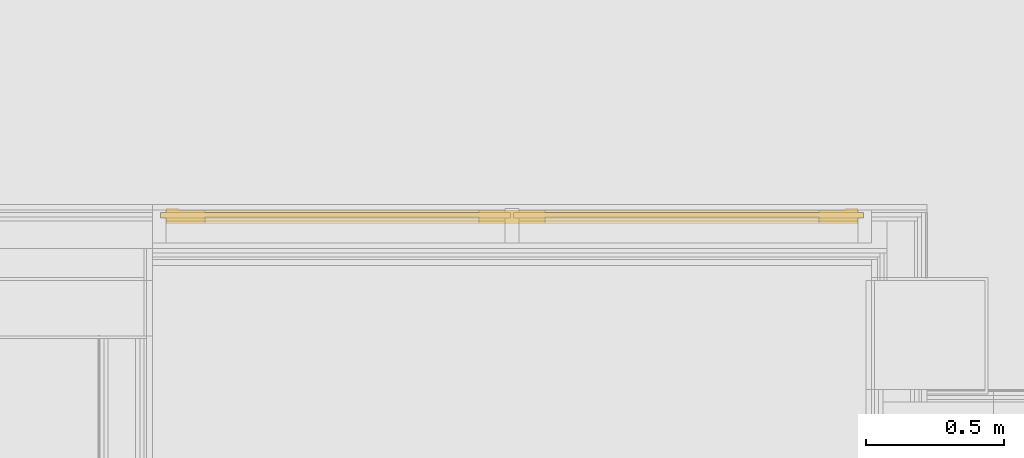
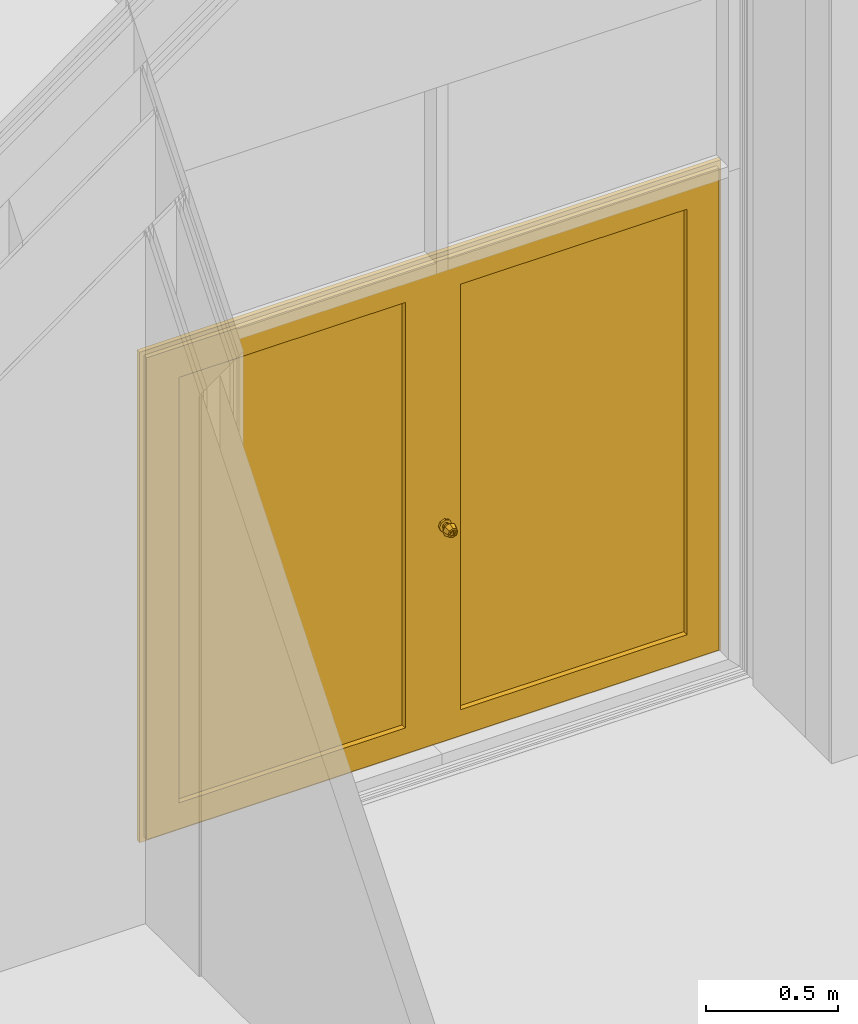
# One storey, part 249 of 260: 1 door, 1 element without a shape of its own.
"""IFC2X3 building model written with IfcOpenShell, lengths in millimetres."""

from ifc_helpers import new_model, entity, si_unit, converted_unit, derived_unit, money_unit, direction, frame, origin_with_axes, place, context, subcontext, project, spatial, open_shell, faceted_brep, surface_model, material, material_list, type_object, element, aggregate, save


model = new_model("IFC2X3")

# Units and contexts
model_context = context("Model", 3, precision=0.01, world=origin_with_axes(), true_north=direction((0.0, 1.0)))
body_context = subcontext(model_context, "Body", "Model", "MODEL_VIEW")
ifc_project = project(units=[si_unit("LENGTHUNIT", "METRE", prefix="MILLI"), si_unit("AREAUNIT", "SQUARE_METRE"), si_unit("VOLUMEUNIT", "CUBIC_METRE"), converted_unit("PLANEANGLEUNIT", "DEGREE", entity("IfcPlaneAngleMeasure", 0.0174532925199), si_unit("PLANEANGLEUNIT", "RADIAN"), dimensions=[0, 0, 0, 0, 0, 0, 0]), money_unit("EUR"), converted_unit("TIMEUNIT", "Year", entity("IfcTimeMeasure", 31556926.0), si_unit("TIMEUNIT", "SECOND"), dimensions=[0, 0, 1, 0, 0, 0, 0]), si_unit("MASSUNIT", "GRAM", prefix="KILO"), si_unit("THERMODYNAMICTEMPERATUREUNIT", "DEGREE_CELSIUS"), si_unit("LUMINOUSINTENSITYUNIT", "LUMEN"), si_unit("ENERGYUNIT", "JOULE", prefix="MEGA"), derived_unit("THERMALCONDUCTANCEUNIT", [(si_unit("POWERUNIT", "WATT"), 1), (si_unit("LENGTHUNIT", "METRE"), -1), (si_unit("THERMODYNAMICTEMPERATUREUNIT", "KELVIN"), -1)]), derived_unit("SPECIFICHEATCAPACITYUNIT", [(si_unit("ENERGYUNIT", "JOULE"), 1), (si_unit("MASSUNIT", "GRAM", prefix="KILO"), -1), (si_unit("THERMODYNAMICTEMPERATUREUNIT", "KELVIN"), -1)]), derived_unit("MASSDENSITYUNIT", [(si_unit("MASSUNIT", "GRAM", prefix="KILO"), 1), (si_unit("VOLUMEUNIT", "CUBIC_METRE"), -1)])], contexts=[model_context])

# Site, building, storey
site_placement = place(None, origin_with_axes())
site = spatial("IfcSite", under=ifc_project, at=site_placement, Name="Kolde pst 67a", CompositionType="ELEMENT")
building_placement = place(site_placement, origin_with_axes())
building = spatial("IfcBuilding", under=site, at=building_placement, Name="Riigigümnaasium", CompositionType="ELEMENT")
storey_placement = place(building_placement, origin_with_axes())
storey = spatial("IfcBuildingStorey", under=building, at=storey_placement, Name="1. korrus", CompositionType="ELEMENT", Elevation=0.0)

# Curtain wall, door
curtain_wall_type = type_object("IfcCurtainWallType", Name="Curtain Wall Type", PredefinedType="NOTDEFINED")
curtain_wall_placement = place(storey_placement, frame((75080.0012187, 24675.0981117, -4.39663905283e-06), z_axis=(0.0, 0.0, 1.0), x_axis=(1.0, 0.0, 0.0)))
curtain_wall = element("IfcCurtainWall", 1, at=curtain_wall_placement, inside=storey, type_object=curtain_wall_type, Name="KLAASSEIN")
ifc_material_1 = material(Name="_METALL - alumiinium")
ifc_material_2 = material(Name="_KLAAS - kirgas")
ifc_material_3 = material(Name="_METALL - roostevaba terasleht, harjatud, 1mm")
ifc_material_list = material_list([ifc_material_1, ifc_material_2, ifc_material_3])
door_style = type_object("IfcDoorStyle", Name="1270 x 2265 x 20", ConstructionType="NOTDEFINED", OperationType="DOUBLE_DOOR_SINGLE_SWING", ParameterTakesPrecedence=False, Sizeable=False)
door_placement = place(curtain_wall_placement, frame((0.0, 0.0, 1150.0), z_axis=(0.0, 0.0, 1.0), x_axis=(-1.0, 0.0, 0.0)))
door = element("IfcDoor", 2, at=door_placement, type_object=door_style, material=ifc_material_list, Name="Kahepoolne siseuks", ObjectType="DOOR", OverallHeight=2225.0, OverallWidth=2500.0, context=body_context, shape_type="SurfaceModel", body=[
    faceted_brep([(1250.00167274, -20.0, -1099.99998407), (1250.00167274, -20.0, 1125.00000803), (1250.00167274, -25.0, 1125.00000803), (1250.00167274, -25.0, -1099.99998407), (1205.00167274, -20.0, -1099.99998407), (1205.00167274, -20.0, 1080.00000803), (1205.00167274, -25.0, 1080.00000803), (1205.00167274, -25.0, -1099.99998407)], [[[0, 1, 2, 3]], [[0, 4, 5, 1]], [[1, 5, 6, 2]], [[3, 2, 6, 7]], [[4, 0, 3, 7]], [[5, 4, 7, 6]]]),
    faceted_brep([(-1250.00082841, -20.0, 1125.00000803), (-1205.00082841, -20.0, 1080.00000803), (-1205.00082841, -25.0, 1080.00000803), (-1250.00082841, -25.0, 1125.00000803), (1250.00167274, -20.0, 1125.00000803), (1205.00167274, -20.0, 1080.00000803), (1205.00167274, -25.0, 1080.00000803), (1250.00167274, -25.0, 1125.00000803)], [[[0, 1, 2, 3]], [[0, 4, 5, 1]], [[1, 5, 6, 2]], [[3, 2, 6, 7]], [[4, 0, 3, 7]], [[5, 4, 7, 6]]]),
    faceted_brep([(-1250.00082841, -20.0, -1099.99998407), (-1205.00082841, -20.0, -1099.99998407), (-1205.00082841, -25.0, -1099.99998407), (-1250.00082841, -25.0, -1099.99998407), (-1250.00082841, -20.0, 1125.00000803), (-1205.00082841, -20.0, 1080.00000803), (-1205.00082841, -25.0, 1080.00000803), (-1250.00082841, -25.0, 1125.00000803)], [[[0, 1, 2, 3]], [[0, 4, 5, 1]], [[1, 5, 6, 2]], [[3, 2, 6, 7]], [[4, 0, 3, 7]], [[5, 4, 7, 6]]]),
    faceted_brep([(1250.00167274, 30.0, -1099.99998407), (1250.00167274, 30.0, 1125.00000803), (1250.00167274, -20.0, 1125.00000803), (1250.00167274, -20.0, -1099.99998407), (1230.00167274, 30.0, -1099.99998407), (1230.00167274, 30.0, 1105.00000803), (1230.00167274, -20.0, 1105.00000803), (1230.00167274, -20.0, -1099.99998407)], [[[0, 1, 2, 3]], [[0, 4, 5, 1]], [[1, 5, 6, 2]], [[3, 2, 6, 7]], [[4, 0, 3, 7]], [[5, 4, 7, 6]]]),
    faceted_brep([(-1250.00082841, 30.0, 1125.00000803), (-1230.00082841, 30.0, 1105.00000803), (-1230.00082841, -20.0, 1105.00000803), (-1250.00082841, -20.0, 1125.00000803), (1250.00167274, 30.0, 1125.00000803), (1230.00167274, 30.0, 1105.00000803), (1230.00167274, -20.0, 1105.00000803), (1250.00167274, -20.0, 1125.00000803)], [[[0, 1, 2, 3]], [[0, 4, 5, 1]], [[1, 5, 6, 2]], [[3, 2, 6, 7]], [[4, 0, 3, 7]], [[5, 4, 7, 6]]]),
    faceted_brep([(-1250.00082841, 30.0, -1099.99998407), (-1230.00082841, 30.0, -1099.99998407), (-1230.00082841, -20.0, -1099.99998407), (-1250.00082841, -20.0, -1099.99998407), (-1250.00082841, 30.0, 1125.00000803), (-1230.00082841, 30.0, 1105.00000803), (-1230.00082841, -20.0, 1105.00000803), (-1250.00082841, -20.0, 1125.00000803)], [[[0, 1, 2, 3]], [[0, 4, 5, 1]], [[1, 5, 6, 2]], [[3, 2, 6, 7]], [[4, 0, 3, 7]], [[5, 4, 7, 6]]]),
    faceted_brep([(-1270.00082703, 10.0, -1119.99998269), (1270.00167137, 10.0, -1119.99998269), (1270.00167137, -10.0, -1119.99998269), (-1270.00082703, -10.0, -1119.99998269), (-1250.00082841, 10.0, -1099.99998407), (1250.00167274, 10.0, -1099.99998407), (1250.00167274, -10.0, -1099.99998407), (-1250.00082841, -10.0, -1099.99998407)], [[[0, 1, 2, 3]], [[0, 4, 5, 1]], [[1, 5, 6, 2]], [[3, 2, 6, 7]], [[4, 0, 3, 7]], [[5, 4, 7, 6]]]),
    faceted_brep([(1270.00167137, 10.0, -1119.99998269), (1270.00167137, 10.0, 1145.00000665), (1270.00167137, -10.0, 1145.00000665), (1270.00167137, -10.0, -1119.99998269), (1250.00167274, 10.0, -1099.99998407), (1250.00167274, 10.0, 1125.00000803), (1250.00167274, -10.0, 1125.00000803), (1250.00167274, -10.0, -1099.99998407)], [[[0, 1, 2, 3]], [[0, 4, 5, 1]], [[1, 5, 6, 2]], [[3, 2, 6, 7]], [[4, 0, 3, 7]], [[5, 4, 7, 6]]]),
    faceted_brep([(1270.00167137, 10.0, 1145.00000665), (-1270.00082703, 10.0, 1145.00000665), (-1270.00082703, -10.0, 1145.00000665), (1270.00167137, -10.0, 1145.00000665), (1250.00167274, 10.0, 1125.00000803), (-1250.00082841, 10.0, 1125.00000803), (-1250.00082841, -10.0, 1125.00000803), (1250.00167274, -10.0, 1125.00000803)], [[[0, 1, 2, 3]], [[0, 4, 5, 1]], [[1, 5, 6, 2]], [[3, 2, 6, 7]], [[4, 0, 3, 7]], [[5, 4, 7, 6]]]),
    faceted_brep([(-1270.00082703, 10.0, 1145.00000665), (-1270.00082703, 10.0, -1119.99998269), (-1270.00082703, -10.0, -1119.99998269), (-1270.00082703, -10.0, 1145.00000665), (-1250.00082841, 10.0, 1125.00000803), (-1250.00082841, 10.0, -1099.99998407), (-1250.00082841, -10.0, -1099.99998407), (-1250.00082841, -10.0, 1125.00000803)], [[[0, 1, 2, 3]], [[0, 4, 5, 1]], [[1, 5, 6, 2]], [[3, 2, 6, 7]], [[4, 0, 3, 7]], [[5, 4, 7, 6]]]),
    faceted_brep([(-1110.00082841, -20.0, -979.999984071), (-1110.00082841, 30.0, -979.999984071), (-1110.00082841, 30.0, 985.000008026), (-1110.00082841, -20.0, 985.000008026), (-1230.00082841, -20.0, -1099.99998407), (-1230.00082841, 30.0, -1099.99998407), (-1230.00082841, 30.0, 1105.00000803), (-1230.00082841, -20.0, 1105.00000803)], [[[0, 1, 2, 3]], [[4, 5, 1, 0]], [[1, 5, 6, 2]], [[3, 2, 6, 7]], [[0, 3, 7, 4]], [[7, 6, 5, 4]]]),
    faceted_brep([(0.000422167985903, -20.0, -1099.99998407), (0.000422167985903, 30.0, -1099.99998407), (0.000422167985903, 30.0, 1105.00000803), (0.000422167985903, -20.0, 1105.00000803), (-119.999577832, -20.0, -979.999984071), (-119.999577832, 30.0, -979.999984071), (-119.999577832, 30.0, 985.000008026), (-119.999577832, -20.0, 985.000008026)], [[[0, 1, 2, 3]], [[4, 5, 1, 0]], [[1, 5, 6, 2]], [[3, 2, 6, 7]], [[0, 3, 7, 4]], [[7, 6, 5, 4]]]),
    faceted_brep([(0.000422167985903, -20.0, -1099.99998407), (0.000422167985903, 30.0, -1099.99998407), (-119.999577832, 30.0, -979.999984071), (-119.999577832, -20.0, -979.999984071), (-1230.00082841, -20.0, -1099.99998407), (-1230.00082841, 30.0, -1099.99998407), (-1110.00082841, 30.0, -979.999984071), (-1110.00082841, -20.0, -979.999984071)], [[[0, 1, 2, 3]], [[4, 5, 1, 0]], [[1, 5, 6, 2]], [[3, 2, 6, 7]], [[0, 3, 7, 4]], [[7, 6, 5, 4]]]),
    faceted_brep([(-1230.00082841, -20.0, 1105.00000803), (-1230.00082841, 30.0, 1105.00000803), (-1110.00082841, 30.0, 985.000008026), (-1110.00082841, -20.0, 985.000008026), (0.000422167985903, -20.0, 1105.00000803), (0.000422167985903, 30.0, 1105.00000803), (-119.999577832, 30.0, 985.000008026), (-119.999577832, -20.0, 985.000008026)], [[[0, 1, 2, 3]], [[4, 5, 1, 0]], [[1, 5, 6, 2]], [[3, 2, 6, 7]], [[0, 3, 7, 4]], [[7, 6, 5, 4]]]),
    faceted_brep([(-1110.00082841, -10.0, -979.999984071), (-1110.00082841, 6.0, -979.999984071), (-119.999577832, 6.0, -979.999984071), (-119.999577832, -10.0, -979.999984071), (-1110.00082841, -10.0, 985.000008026), (-1110.00082841, 6.0, 985.000008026), (-119.999577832, 6.0, 985.000008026), (-119.999577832, -10.0, 985.000008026)], [[[0, 1, 2, 3]], [[4, 5, 1, 0]], [[1, 5, 6, 2]], [[3, 2, 6, 7]], [[0, 3, 7, 4]], [[7, 6, 5, 4]]]),
    surface_model("IfcShellBasedSurfaceModel", [(-41.999577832, 95.2132034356, -91.9999840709), (-49.999577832, 95.2132034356, -88.6862755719), (-49.999577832, 97.275238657, -83.7330813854), (-38.4971406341, 97.275238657, -88.4975468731), (-38.685869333, 95.2132034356, -99.9999840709), (-41.999577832, 95.2132034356, -107.999984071), (-49.999577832, 95.2132034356, -111.31369257), (-57.999577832, 95.2132034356, -107.999984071), (-61.313286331, 95.2132034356, -99.9999840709), (-57.999577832, 95.2132034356, -91.9999840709), (-61.5020150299, 97.275238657, -88.4975468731), (-49.999577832, 95.2249852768, -78.7749987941), (-34.9912468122, 95.2249852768, -84.9916530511), (-33.7326751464, 97.275238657, -99.9999840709), (-38.4971406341, 97.275238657, -111.502421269), (-49.999577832, 97.275238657, -116.266886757), (-61.5020150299, 97.275238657, -111.502421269), (-66.2664805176, 97.275238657, -99.9999840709), (-65.0079088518, 95.2249852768, -84.9916530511), (-49.999577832, 70.0772711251, -70.2407468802), (-28.9566194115, 70.0772711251, -78.9570256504), (-28.7745925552, 95.2249852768, -99.9999840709), (-34.9912468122, 95.2249852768, -115.008315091), (-49.999577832, 95.2249852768, -121.224969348), (-65.0079088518, 95.2249852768, -115.008315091), (-71.2245631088, 95.2249852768, -99.9999840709), (-71.0425362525, 70.0772711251, -78.9570256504), (-49.999577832, 48.0, -84.9999840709), (-39.3929761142, 48.0, -89.3933823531), (-20.2403406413, 70.0772711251, -99.9999840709), (-28.9566194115, 70.0772711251, -121.042942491), (-49.999577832, 70.0772711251, -129.759221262), (-71.0425362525, 70.0772711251, -121.042942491), (-79.7588150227, 70.0772711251, -99.9999840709), (-60.6061795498, 48.0, -89.3933823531), (-49.999577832, 47.98, -84.9999840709), (-39.3929761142, 47.98, -89.3933823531), (-34.999577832, 48.0, -99.9999840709), (-39.3929761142, 48.0, -110.606585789), (-49.999577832, 48.0, -114.999984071), (-60.6061795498, 48.0, -110.606585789), (-64.999577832, 48.0, -99.9999840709), (-60.6061795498, 47.98, -89.3933823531), (-49.999577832, 40.1, -84.9999840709), (-39.3929761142, 40.1, -89.3933823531), (-34.999577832, 47.98, -99.9999840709), (-39.3929761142, 47.98, -110.606585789), (-49.999577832, 47.98, -114.999984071), (-60.6061795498, 47.98, -110.606585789), (-64.999577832, 47.98, -99.9999840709), (-60.6061795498, 40.1, -89.3933823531), (-49.999577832, 40.0, -84.9999840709), (-39.3929761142, 40.0, -89.3933823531), (-34.999577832, 40.1, -99.9999840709), (-39.3929761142, 40.1, -110.606585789), (-49.999577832, 40.1, -114.999984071), (-60.6061795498, 40.1, -110.606585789), (-64.999577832, 40.1, -99.9999840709), (-60.6061795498, 40.0, -89.3933823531), (-49.999577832, 40.0, -84.8999840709), (-39.3222654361, 40.0, -89.322671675), (-34.999577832, 40.0, -99.9999840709), (-39.3929761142, 40.0, -110.606585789), (-49.999577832, 40.0, -114.999984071), (-60.6061795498, 40.0, -110.606585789), (-64.999577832, 40.0, -99.9999840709), (-60.6768902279, 40.0, -89.322671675), (-49.999577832, 40.0, -73.0999840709), (-30.9784054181, 40.0, -80.978811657), (-34.899577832, 40.0, -99.9999840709), (-39.3222654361, 40.0, -110.677296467), (-49.999577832, 40.0, -115.099984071), (-60.6768902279, 40.0, -110.677296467), (-65.099577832, 40.0, -99.9999840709), (-69.0207502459, 40.0, -80.978811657), (-49.999577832, 40.0, -72.9999840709), (-30.90769474, 40.0, -80.9081009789), (-23.099577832, 40.0, -99.9999840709), (-30.9784054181, 40.0, -119.021156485), (-49.999577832, 40.0, -126.899984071), (-69.0207502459, 40.0, -119.021156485), (-76.899577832, 40.0, -99.9999840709), (-69.0914609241, 40.0, -80.9081009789), (-49.999577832, 39.9, -72.9999840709), (-30.90769474, 39.9, -80.9081009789), (-22.999577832, 40.0, -99.9999840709), (-30.90769474, 40.0, -119.091867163), (-49.999577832, 40.0, -126.999984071), (-69.0914609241, 40.0, -119.091867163), (-76.999577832, 40.0, -99.9999840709), (-69.0914609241, 39.9, -80.9081009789), (-49.999577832, 30.0, -72.9999840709), (-30.90769474, 30.0, -80.9081009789), (-22.999577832, 39.9, -99.9999840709), (-30.90769474, 39.9, -119.091867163), (-49.999577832, 39.9, -126.999984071), (-69.0914609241, 39.9, -119.091867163), (-76.999577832, 39.9, -99.9999840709), (-69.0914609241, 30.0, -80.9081009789), (-22.999577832, 30.0, -99.9999840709), (-30.90769474, 30.0, -119.091867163), (-49.999577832, 30.0, -126.999984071), (-69.0914609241, 30.0, -119.091867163), (-76.999577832, 30.0, -99.9999840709)], [open_shell([[[0, 1, 2, 3]], [[1, 0, 4, 5, 6, 7, 8, 9]], [[1, 9, 10, 2]], [[3, 2, 11, 12]], [[4, 0, 3, 13]], [[5, 4, 13, 14]], [[6, 5, 14, 15]], [[7, 6, 15, 16]], [[8, 7, 16, 17]], [[9, 8, 17, 10]], [[2, 10, 18, 11]], [[12, 11, 19, 20]], [[13, 3, 12, 21]], [[14, 13, 21, 22]], [[15, 14, 22, 23]], [[16, 15, 23, 24]], [[17, 16, 24, 25]], [[10, 17, 25, 18]], [[11, 18, 26, 19]], [[20, 19, 27, 28]], [[21, 12, 20, 29]], [[22, 21, 29, 30]], [[23, 22, 30, 31]], [[24, 23, 31, 32]], [[25, 24, 32, 33]], [[18, 25, 33, 26]], [[19, 26, 34, 27]], [[28, 27, 35, 36]], [[29, 20, 28, 37]], [[30, 29, 37, 38]], [[31, 30, 38, 39]], [[32, 31, 39, 40]], [[33, 32, 40, 41]], [[26, 33, 41, 34]], [[27, 34, 42, 35]], [[36, 35, 43, 44]], [[37, 28, 36, 45]], [[38, 37, 45, 46]], [[39, 38, 46, 47]], [[40, 39, 47, 48]], [[41, 40, 48, 49]], [[34, 41, 49, 42]], [[35, 42, 50, 43]], [[44, 43, 51, 52]], [[45, 36, 44, 53]], [[46, 45, 53, 54]], [[47, 46, 54, 55]], [[48, 47, 55, 56]], [[49, 48, 56, 57]], [[42, 49, 57, 50]], [[43, 50, 58, 51]], [[52, 51, 59, 60]], [[53, 44, 52, 61]], [[54, 53, 61, 62]], [[55, 54, 62, 63]], [[56, 55, 63, 64]], [[57, 56, 64, 65]], [[50, 57, 65, 58]], [[51, 58, 66, 59]], [[60, 59, 67, 68]], [[61, 52, 60, 69]], [[62, 61, 69, 70]], [[63, 62, 70, 71]], [[64, 63, 71, 72]], [[65, 64, 72, 73]], [[58, 65, 73, 66]], [[59, 66, 74, 67]], [[68, 67, 75, 76]], [[69, 60, 68, 77]], [[70, 69, 77, 78]], [[71, 70, 78, 79]], [[72, 71, 79, 80]], [[73, 72, 80, 81]], [[66, 73, 81, 74]], [[67, 74, 82, 75]], [[76, 75, 83, 84]], [[77, 68, 76, 85]], [[78, 77, 85, 86]], [[79, 78, 86, 87]], [[80, 79, 87, 88]], [[81, 80, 88, 89]], [[74, 81, 89, 82]], [[75, 82, 90, 83]], [[84, 83, 91, 92]], [[85, 76, 84, 93]], [[86, 85, 93, 94]], [[87, 86, 94, 95]], [[88, 87, 95, 96]], [[89, 88, 96, 97]], [[82, 89, 97, 90]], [[83, 90, 98, 91]], [[93, 84, 92, 99]], [[94, 93, 99, 100]], [[95, 94, 100, 101]], [[96, 95, 101, 102]], [[97, 96, 102, 103]], [[90, 97, 103, 98]]])]),
    faceted_brep([(-57.4241990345, 95.2132034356, -107.424605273), (-49.999577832, 95.2132034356, -110.499984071), (-42.5749566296, 95.2132034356, -107.424605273), (-39.499577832, 95.2132034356, -99.9999840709), (-42.5749566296, 95.2132034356, -92.5753628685), (-49.999577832, 95.2132034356, -89.4999840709), (-57.4241990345, 95.2132034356, -92.5753628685), (-60.499577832, 95.2132034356, -99.9999840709), (-57.4241990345, 96.7132034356, -107.424605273), (-49.999577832, 96.7132034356, -110.499984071), (-42.5749566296, 96.7132034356, -107.424605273), (-39.499577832, 96.7132034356, -99.9999840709), (-42.5749566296, 96.7132034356, -92.5753628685), (-49.999577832, 96.7132034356, -89.4999840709), (-57.4241990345, 96.7132034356, -92.5753628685), (-60.499577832, 96.7132034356, -99.9999840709)], [[[0, 1, 2, 3, 4, 5, 6, 7]], [[1, 0, 8, 9]], [[2, 1, 9, 10]], [[3, 2, 10, 11]], [[4, 3, 11, 12]], [[5, 4, 12, 13]], [[6, 5, 13, 14]], [[7, 6, 14, 15]], [[0, 7, 15, 8]], [[8, 15, 14, 13, 12, 11, 10, 9]]]),
    faceted_brep([(-51.499577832, 96.7132034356, -109.999984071), (-51.499577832, 103.784271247, -107.071051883), (-48.499577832, 103.784271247, -107.071051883), (-48.499577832, 96.7132034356, -109.999984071), (-51.499577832, 96.7132034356, -89.9999840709), (-51.499577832, 103.784271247, -92.9289162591), (-51.499577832, 106.713203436, -99.9999840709), (-48.499577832, 106.713203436, -99.9999840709), (-48.499577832, 103.784271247, -92.9289162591), (-48.499577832, 96.7132034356, -89.9999840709)], [[[0, 1, 2, 3]], [[0, 4, 5, 6, 1]], [[1, 6, 7, 2]], [[3, 2, 7, 8, 9]], [[4, 0, 3, 9]], [[5, 4, 9, 8]], [[6, 5, 8, 7]]]),
    surface_model("IfcShellBasedSurfaceModel", [(-41.999577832, -85.2132034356, -91.9999840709), (-38.4971406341, -87.275238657, -88.4975468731), (-49.999577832, -87.275238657, -83.7330813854), (-49.999577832, -85.2132034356, -88.6862755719), (-38.685869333, -85.2132034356, -99.9999840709), (-33.7326751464, -87.275238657, -99.9999840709), (-34.9912468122, -85.2249852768, -84.9916530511), (-49.999577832, -85.2249852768, -78.7749987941), (-61.5020150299, -87.275238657, -88.4975468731), (-57.999577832, -85.2132034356, -91.9999840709), (-61.313286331, -85.2132034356, -99.9999840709), (-57.999577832, -85.2132034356, -107.999984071), (-49.999577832, -85.2132034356, -111.31369257), (-41.999577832, -85.2132034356, -107.999984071), (-38.4971406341, -87.275238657, -111.502421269), (-28.7745925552, -85.2249852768, -99.9999840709), (-28.9566194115, -60.0772711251, -78.9570256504), (-49.999577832, -60.0772711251, -70.2407468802), (-65.0079088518, -85.2249852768, -84.9916530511), (-66.2664805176, -87.275238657, -99.9999840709), (-61.5020150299, -87.275238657, -111.502421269), (-49.999577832, -87.275238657, -116.266886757), (-34.9912468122, -85.2249852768, -115.008315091), (-20.2403406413, -60.0772711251, -99.9999840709), (-39.3929761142, -38.0, -89.3933823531), (-49.999577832, -38.0, -84.9999840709), (-71.0425362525, -60.0772711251, -78.9570256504), (-71.2245631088, -85.2249852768, -99.9999840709), (-65.0079088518, -85.2249852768, -115.008315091), (-49.999577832, -85.2249852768, -121.224969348), (-28.9566194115, -60.0772711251, -121.042942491), (-34.999577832, -38.0, -99.9999840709), (-39.3929761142, -37.98, -89.3933823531), (-49.999577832, -37.98, -84.9999840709), (-60.6061795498, -38.0, -89.3933823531), (-79.7588150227, -60.0772711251, -99.9999840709), (-71.0425362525, -60.0772711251, -121.042942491), (-49.999577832, -60.0772711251, -129.759221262), (-39.3929761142, -38.0, -110.606585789), (-34.999577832, -37.98, -99.9999840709), (-39.3929761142, -30.1, -89.3933823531), (-49.999577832, -30.1, -84.9999840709), (-60.6061795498, -37.98, -89.3933823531), (-64.999577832, -38.0, -99.9999840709), (-60.6061795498, -38.0, -110.606585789), (-49.999577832, -38.0, -114.999984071), (-39.3929761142, -37.98, -110.606585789), (-34.999577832, -30.1, -99.9999840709), (-39.3929761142, -30.0, -89.3933823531), (-49.999577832, -30.0, -84.9999840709), (-60.6061795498, -30.1, -89.3933823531), (-64.999577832, -37.98, -99.9999840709), (-60.6061795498, -37.98, -110.606585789), (-49.999577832, -37.98, -114.999984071), (-39.3929761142, -30.1, -110.606585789), (-34.999577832, -30.0, -99.9999840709), (-39.3222654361, -30.0, -89.322671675), (-49.999577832, -30.0, -84.8999840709), (-60.6061795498, -30.0, -89.3933823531), (-64.999577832, -30.1, -99.9999840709), (-60.6061795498, -30.1, -110.606585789), (-49.999577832, -30.1, -114.999984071), (-39.3929761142, -30.0, -110.606585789), (-34.899577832, -30.0, -99.9999840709), (-30.9784054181, -30.0, -80.978811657), (-49.999577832, -30.0, -73.0999840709), (-60.6768902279, -30.0, -89.322671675), (-64.999577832, -30.0, -99.9999840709), (-60.6061795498, -30.0, -110.606585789), (-49.999577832, -30.0, -114.999984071), (-39.3222654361, -30.0, -110.677296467), (-23.099577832, -30.0, -99.9999840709), (-30.90769474, -30.0, -80.9081009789), (-49.999577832, -30.0, -72.9999840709), (-69.0207502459, -30.0, -80.978811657), (-65.099577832, -30.0, -99.9999840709), (-60.6768902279, -30.0, -110.677296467), (-49.999577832, -30.0, -115.099984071), (-30.9784054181, -30.0, -119.021156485), (-22.999577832, -30.0, -99.9999840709), (-30.90769474, -29.9, -80.9081009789), (-49.999577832, -29.9, -72.9999840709), (-69.0914609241, -30.0, -80.9081009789), (-76.899577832, -30.0, -99.9999840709), (-69.0207502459, -30.0, -119.021156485), (-49.999577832, -30.0, -126.899984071), (-30.90769474, -30.0, -119.091867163), (-22.999577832, -29.9, -99.9999840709), (-30.90769474, -20.0, -80.9081009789), (-49.999577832, -20.0, -72.9999840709), (-69.0914609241, -29.9, -80.9081009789), (-76.999577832, -30.0, -99.9999840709), (-69.0914609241, -30.0, -119.091867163), (-49.999577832, -30.0, -126.999984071), (-30.90769474, -29.9, -119.091867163), (-22.999577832, -20.0, -99.9999840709), (-69.0914609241, -20.0, -80.9081009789), (-76.999577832, -29.9, -99.9999840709), (-69.0914609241, -29.9, -119.091867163), (-49.999577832, -29.9, -126.999984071), (-30.90769474, -20.0, -119.091867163), (-76.999577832, -20.0, -99.9999840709), (-69.0914609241, -20.0, -119.091867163), (-49.999577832, -20.0, -126.999984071)], [open_shell([[[0, 1, 2, 3]], [[4, 5, 1, 0]], [[1, 6, 7, 2]], [[3, 2, 8, 9]], [[3, 9, 10, 11, 12, 13, 4, 0]], [[13, 14, 5, 4]], [[5, 15, 6, 1]], [[6, 16, 17, 7]], [[2, 7, 18, 8]], [[9, 8, 19, 10]], [[10, 19, 20, 11]], [[11, 20, 21, 12]], [[12, 21, 14, 13]], [[14, 22, 15, 5]], [[15, 23, 16, 6]], [[16, 24, 25, 17]], [[7, 17, 26, 18]], [[8, 18, 27, 19]], [[19, 27, 28, 20]], [[20, 28, 29, 21]], [[21, 29, 22, 14]], [[22, 30, 23, 15]], [[23, 31, 24, 16]], [[24, 32, 33, 25]], [[17, 25, 34, 26]], [[18, 26, 35, 27]], [[27, 35, 36, 28]], [[28, 36, 37, 29]], [[29, 37, 30, 22]], [[30, 38, 31, 23]], [[31, 39, 32, 24]], [[32, 40, 41, 33]], [[25, 33, 42, 34]], [[26, 34, 43, 35]], [[35, 43, 44, 36]], [[36, 44, 45, 37]], [[37, 45, 38, 30]], [[38, 46, 39, 31]], [[39, 47, 40, 32]], [[40, 48, 49, 41]], [[33, 41, 50, 42]], [[34, 42, 51, 43]], [[43, 51, 52, 44]], [[44, 52, 53, 45]], [[45, 53, 46, 38]], [[46, 54, 47, 39]], [[47, 55, 48, 40]], [[48, 56, 57, 49]], [[41, 49, 58, 50]], [[42, 50, 59, 51]], [[51, 59, 60, 52]], [[52, 60, 61, 53]], [[53, 61, 54, 46]], [[54, 62, 55, 47]], [[55, 63, 56, 48]], [[56, 64, 65, 57]], [[49, 57, 66, 58]], [[50, 58, 67, 59]], [[59, 67, 68, 60]], [[60, 68, 69, 61]], [[61, 69, 62, 54]], [[62, 70, 63, 55]], [[63, 71, 64, 56]], [[64, 72, 73, 65]], [[57, 65, 74, 66]], [[58, 66, 75, 67]], [[67, 75, 76, 68]], [[68, 76, 77, 69]], [[69, 77, 70, 62]], [[70, 78, 71, 63]], [[71, 79, 72, 64]], [[72, 80, 81, 73]], [[65, 73, 82, 74]], [[66, 74, 83, 75]], [[75, 83, 84, 76]], [[76, 84, 85, 77]], [[77, 85, 78, 70]], [[78, 86, 79, 71]], [[79, 87, 80, 72]], [[80, 88, 89, 81]], [[73, 81, 90, 82]], [[74, 82, 91, 83]], [[83, 91, 92, 84]], [[84, 92, 93, 85]], [[85, 93, 86, 78]], [[86, 94, 87, 79]], [[87, 95, 88, 80]], [[81, 89, 96, 90]], [[82, 90, 97, 91]], [[91, 97, 98, 92]], [[92, 98, 99, 93]], [[93, 99, 94, 86]], [[94, 100, 95, 87]], [[90, 96, 101, 97]], [[97, 101, 102, 98]], [[98, 102, 103, 99]], [[99, 103, 100, 94]]])]),
    faceted_brep([(-57.4241990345, -85.2132034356, -107.424605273), (-60.499577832, -85.2132034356, -99.9999840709), (-57.4241990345, -85.2132034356, -92.5753628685), (-49.999577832, -85.2132034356, -89.4999840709), (-42.5749566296, -85.2132034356, -92.5753628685), (-39.499577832, -85.2132034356, -99.9999840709), (-42.5749566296, -85.2132034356, -107.424605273), (-49.999577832, -85.2132034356, -110.499984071), (-57.4241990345, -86.7132034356, -107.424605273), (-60.499577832, -86.7132034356, -99.9999840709), (-57.4241990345, -86.7132034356, -92.5753628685), (-49.999577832, -86.7132034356, -89.4999840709), (-42.5749566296, -86.7132034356, -92.5753628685), (-39.499577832, -86.7132034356, -99.9999840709), (-42.5749566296, -86.7132034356, -107.424605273), (-49.999577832, -86.7132034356, -110.499984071)], [[[0, 1, 2, 3, 4, 5, 6, 7]], [[0, 8, 9, 1]], [[1, 9, 10, 2]], [[2, 10, 11, 3]], [[3, 11, 12, 4]], [[4, 12, 13, 5]], [[5, 13, 14, 6]], [[6, 14, 15, 7]], [[7, 15, 8, 0]], [[8, 15, 14, 13, 12, 11, 10, 9]]]),
    faceted_brep([(-51.499577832, -86.7132034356, -109.999984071), (-48.499577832, -86.7132034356, -109.999984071), (-48.499577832, -93.7842712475, -107.071051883), (-51.499577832, -93.7842712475, -107.071051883), (-51.499577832, -86.7132034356, -89.9999840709), (-48.499577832, -86.7132034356, -89.9999840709), (-48.499577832, -93.7842712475, -92.9289162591), (-48.499577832, -96.7132034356, -99.9999840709), (-51.499577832, -96.7132034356, -99.9999840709), (-51.499577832, -93.7842712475, -92.9289162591)], [[[0, 1, 2, 3]], [[4, 5, 1, 0]], [[1, 5, 6, 7, 2]], [[3, 2, 7, 8]], [[0, 3, 8, 9, 4]], [[9, 6, 5, 4]], [[8, 7, 6, 9]]]),
    faceted_brep([(120.000422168, -20.0, -979.999984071), (120.000422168, 30.0, -979.999984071), (120.000422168, 30.0, 985.000008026), (120.000422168, -20.0, 985.000008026), (0.000422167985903, -20.0, -1099.99998407), (0.000422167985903, 30.0, -1099.99998407), (0.000422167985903, 30.0, 1105.00000803), (0.000422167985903, -20.0, 1105.00000803)], [[[0, 1, 2, 3]], [[4, 5, 1, 0]], [[1, 5, 6, 2]], [[3, 2, 6, 7]], [[0, 3, 7, 4]], [[7, 6, 5, 4]]]),
    faceted_brep([(1230.00167274, -20.0, -1099.99998407), (1230.00167274, 30.0, -1099.99998407), (1230.00167274, 30.0, 1105.00000803), (1230.00167274, -20.0, 1105.00000803), (1110.00167274, -20.0, -979.999984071), (1110.00167274, 30.0, -979.999984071), (1110.00167274, 30.0, 985.000008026), (1110.00167274, -20.0, 985.000008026)], [[[0, 1, 2, 3]], [[4, 5, 1, 0]], [[1, 5, 6, 2]], [[3, 2, 6, 7]], [[0, 3, 7, 4]], [[7, 6, 5, 4]]]),
    faceted_brep([(1230.00167274, -20.0, -1099.99998407), (1230.00167274, 30.0, -1099.99998407), (1110.00167274, 30.0, -979.999984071), (1110.00167274, -20.0, -979.999984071), (0.000422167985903, -20.0, -1099.99998407), (0.000422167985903, 30.0, -1099.99998407), (120.000422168, 30.0, -979.999984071), (120.000422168, -20.0, -979.999984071)], [[[0, 1, 2, 3]], [[4, 5, 1, 0]], [[1, 5, 6, 2]], [[3, 2, 6, 7]], [[0, 3, 7, 4]], [[7, 6, 5, 4]]]),
    faceted_brep([(0.000422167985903, -20.0, 1105.00000803), (0.000422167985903, 30.0, 1105.00000803), (120.000422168, 30.0, 985.000008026), (120.000422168, -20.0, 985.000008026), (1230.00167274, -20.0, 1105.00000803), (1230.00167274, 30.0, 1105.00000803), (1110.00167274, 30.0, 985.000008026), (1110.00167274, -20.0, 985.000008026)], [[[0, 1, 2, 3]], [[4, 5, 1, 0]], [[1, 5, 6, 2]], [[3, 2, 6, 7]], [[0, 3, 7, 4]], [[7, 6, 5, 4]]]),
    faceted_brep([(120.000422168, -10.0, -979.999984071), (120.000422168, 6.0, -979.999984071), (1110.00167274, 6.0, -979.999984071), (1110.00167274, -10.0, -979.999984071), (120.000422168, -10.0, 985.000008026), (120.000422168, 6.0, 985.000008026), (1110.00167274, 6.0, 985.000008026), (1110.00167274, -10.0, 985.000008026)], [[[0, 1, 2, 3]], [[4, 5, 1, 0]], [[1, 5, 6, 2]], [[3, 2, 6, 7]], [[0, 3, 7, 4]], [[7, 6, 5, 4]]]),
])
aggregate(curtain_wall, [door])

save(model, "model.ifc")
